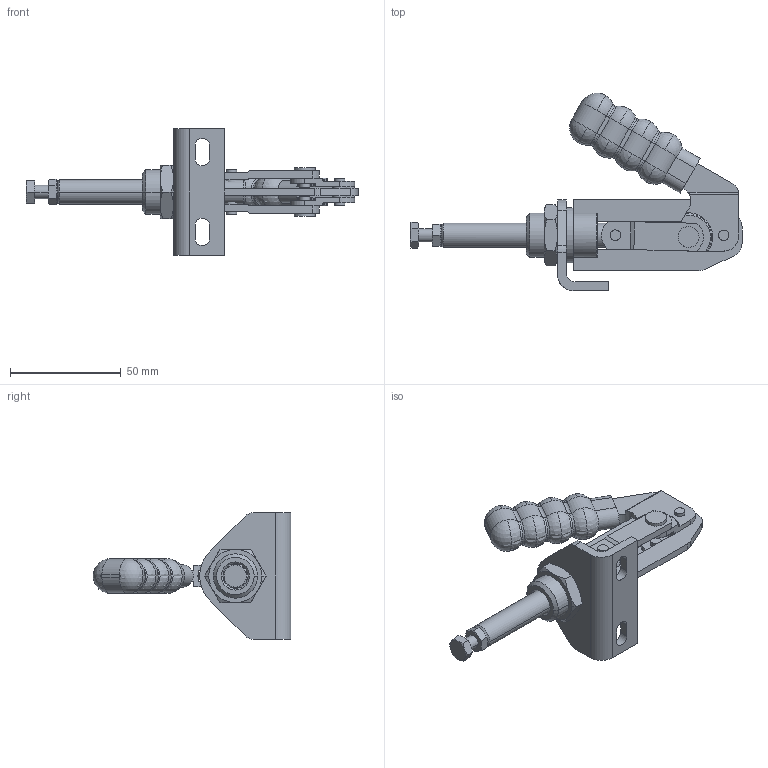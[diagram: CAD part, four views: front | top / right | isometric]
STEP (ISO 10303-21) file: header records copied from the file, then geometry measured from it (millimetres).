
FILE_DESCRIPTION( ( '' ), '1' );
FILE_NAME( '//partserver002.servicenet/client_exchange/iodir/jobs/output/wkb5782739_no6/STEP/p250_2_14a.stp', '2006-11-29T10:46:03', ( '' ), ( '' ), ' ', ' ', ' ' );
FILE_SCHEMA( ( 'automotive_design' ) );
Length unit declared in the file: millimetre
Products named in the file (6): 1; 2; 3; 4; 5; 6
Bounding box: 149.76 x 89.09 x 57 mm (x, y, z)
Volume: 55398.7 mm3; surface area: 29369.9 mm2
Topology: 6 solids, 7 shells, 320 faces, 823 edges, 502 vertices
Faces by surface type: plane 113, cylinder 105, cone 58, torus 28, sphere 16
Entity records: 19073 total; most frequent: CARTESIAN_POINT 2281, DIRECTION 1689, STYLED_ITEM 1617, PRESENTATION_STYLE_ASSIGNMENT 1617, COLOUR_RGB 1617, ORIENTED_EDGE 1578, EDGE_CURVE 789, CURVE_STYLE 789
